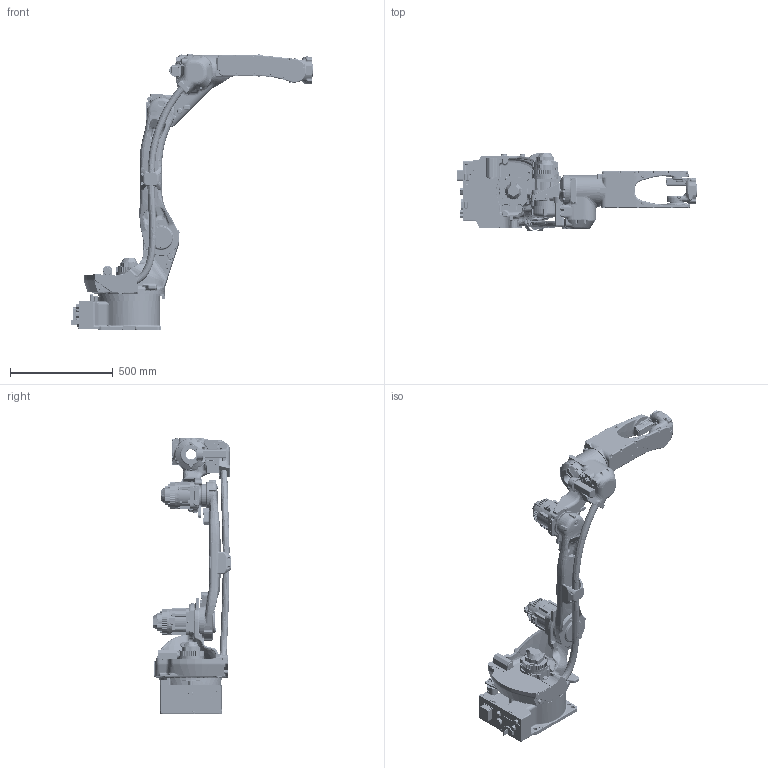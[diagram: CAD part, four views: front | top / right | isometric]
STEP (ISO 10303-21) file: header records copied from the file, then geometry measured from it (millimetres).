
FILE_DESCRIPTION(/* description */ (''),/* implementation_level */ '2;1');
FILE_NAME(/* name */ 'gp12_gaikan.stp',/* time_stamp */ '2016-11-03T08:29:19+01:00',/* author */ (''),/* organization */ (''),/* preprocessor_version */ 'ST-DEVELOPER v16',/* originating_system */ 'SIEMENS PLM Software NX 10.0',/* authorisation */ '');
FILE_SCHEMA (('AUTOMOTIVE_DESIGN { 1 0 10303 214 3 1 1 1 }'));
Products named in the file (8): T_AXIS; B_AXIS; R_AXIS; U_AXIS; L_AXIS; S_AXIS; BASE_AXIS; gp12_gaikan
Assembly tree (7 placements, depth 2):
  gp12_gaikan
    BASE_AXIS
    S_AXIS
    L_AXIS
    U_AXIS
    R_AXIS
    B_AXIS
    T_AXIS
Bounding box: 1180.4 x 383.5 x 1345 mm (x, y, z)
Volume: 50058425.4 mm3; surface area: 2605319.1 mm2
Topology: 7 solids, 10 shells, 7659 faces, 19637 edges, 12139 vertices
Faces by surface type: cylinder 2693, plane 2194, bspline 1617, torus 689, cone 334, sphere 82, extrusion 49, revolution 1
Entity records: 351696 total; most frequent: CARTESIAN_POINT 174833, ORIENTED_EDGE 39202, DIRECTION 35415, EDGE_CURVE 19601, AXIS2_PLACEMENT_3D 13996, VERTEX_POINT 12143, CIRCLE 7924, EDGE_LOOP 7895
